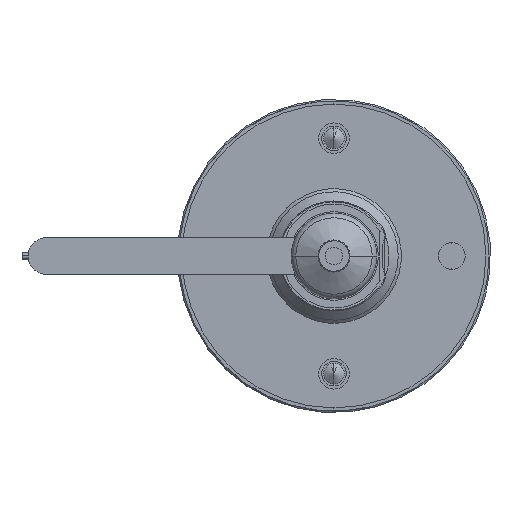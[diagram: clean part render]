
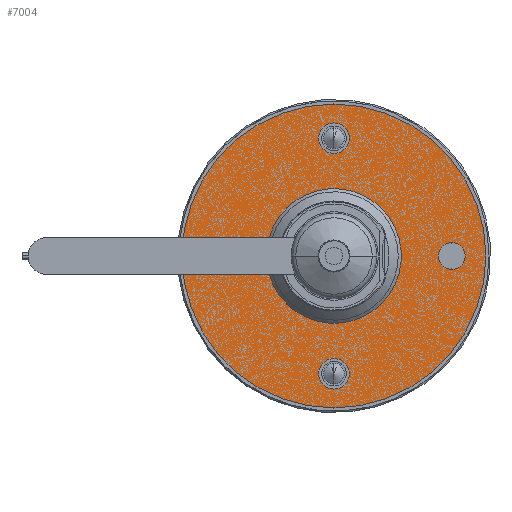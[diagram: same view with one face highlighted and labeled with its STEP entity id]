
A CAD part, front view. The second image highlights one B-rep face of the part: STEP entity #7004.
In plain terms, the highlighted planar face has unit normal (0, -1, 0) as drawn and (0, 0, -1) by its records, which use the part's own axes.
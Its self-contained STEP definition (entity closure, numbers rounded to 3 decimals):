
#38 = AXIS2_PLACEMENT_3D ( 'NONE', #22825, #11093, #20381 ) ;
#59 = DIRECTION ( 'NONE',  ( -1., 0., 0. ) ) ;
#258 = EDGE_CURVE ( 'NONE', #18220, #5603, #30042, .T. ) ;
#500 = CIRCLE ( 'NONE', #7343, 5. ) ;
#741 = VERTEX_POINT ( 'NONE', #5837 ) ;
#991 = AXIS2_PLACEMENT_3D ( 'NONE', #4938, #20962, #9366 ) ;
#1146 = EDGE_CURVE ( 'NONE', #26147, #1529, #2301, .T. ) ;
#1529 = VERTEX_POINT ( 'NONE', #8636 ) ;
#1689 = AXIS2_PLACEMENT_3D ( 'NONE', #13801, #6501, #4202 ) ;
#1718 = CARTESIAN_POINT ( 'NONE',  ( 4.4, -38.5, 0. ) ) ;
#1772 = DIRECTION ( 'NONE',  ( 0., 0., 1. ) ) ;
#1796 = EDGE_LOOP ( 'NONE', ( #9060, #21539 ) ) ;
#2301 = CIRCLE ( 'NONE', #3782, 4.4 ) ;
#2984 = ORIENTED_EDGE ( 'NONE', *, *, #27289, .T. ) ;
#3056 = CARTESIAN_POINT ( 'NONE',  ( 4.4, 38.5, 0. ) ) ;
#3575 = DIRECTION ( 'NONE',  ( -1., 0., 0. ) ) ;
#3782 = AXIS2_PLACEMENT_3D ( 'NONE', #25254, #1772, #59 ) ;
#3837 = ORIENTED_EDGE ( 'NONE', *, *, #17779, .T. ) ;
#4060 = FACE_BOUND ( 'NONE', #1796, .T. ) ;
#4129 = VERTEX_POINT ( 'NONE', #24264 ) ;
#4202 = DIRECTION ( 'NONE',  ( -1., 0., 0. ) ) ;
#4430 = ORIENTED_EDGE ( 'NONE', *, *, #8346, .T. ) ;
#4450 = CIRCLE ( 'NONE', #26382, 4.4 ) ;
#4938 = CARTESIAN_POINT ( 'NONE',  ( 0., 0., 0. ) ) ;
#5401 = ORIENTED_EDGE ( 'NONE', *, *, #6088, .T. ) ;
#5603 = VERTEX_POINT ( 'NONE', #5820 ) ;
#5820 = CARTESIAN_POINT ( 'NONE',  ( 43.5, 0., 0. ) ) ;
#5837 = CARTESIAN_POINT ( 'NONE',  ( -49.675, 0., 0. ) ) ;
#5863 = CARTESIAN_POINT ( 'NONE',  ( 0., -38.5, 0. ) ) ;
#6088 = EDGE_CURVE ( 'NONE', #1529, #26147, #25366, .T. ) ;
#6186 = EDGE_CURVE ( 'NONE', #26580, #4129, #500, .T. ) ;
#6498 = ORIENTED_EDGE ( 'NONE', *, *, #24297, .T. ) ;
#6501 = DIRECTION ( 'NONE',  ( 0., 0., 1. ) ) ;
#6578 = DIRECTION ( 'NONE',  ( -1., 0., 0. ) ) ;
#6653 = FACE_OUTER_BOUND ( 'NONE', #21995, .T. ) ;
#6696 = EDGE_LOOP ( 'NONE', ( #6498, #9051 ) ) ;
#6698 = CARTESIAN_POINT ( 'NONE',  ( -4.4, 38.5, 0. ) ) ;
#7004 = ADVANCED_FACE ( 'NONE', ( #6653, #24952, #25244, #4060, #13214, #18229 ), #22677, .T. ) ;
#7343 = AXIS2_PLACEMENT_3D ( 'NONE', #22783, #9343, #22640 ) ;
#7428 = AXIS2_PLACEMENT_3D ( 'NONE', #25312, #13575, #6578 ) ;
#8346 = EDGE_CURVE ( 'NONE', #29063, #11432, #20501, .T. ) ;
#8448 = DIRECTION ( 'NONE',  ( -1., 0., 0. ) ) ;
#8636 = CARTESIAN_POINT ( 'NONE',  ( -4.4, -38.5, 0. ) ) ;
#8743 = VERTEX_POINT ( 'NONE', #3056 ) ;
#9051 = ORIENTED_EDGE ( 'NONE', *, *, #10143, .T. ) ;
#9060 = ORIENTED_EDGE ( 'NONE', *, *, #258, .T. ) ;
#9237 = EDGE_CURVE ( 'NONE', #741, #18593, #9427, .T. ) ;
#9343 = DIRECTION ( 'NONE',  ( 0., 0., 1. ) ) ;
#9366 = DIRECTION ( 'NONE',  ( 1., 0., 0. ) ) ;
#9427 = CIRCLE ( 'NONE', #27395, 49.675 ) ;
#9842 = CARTESIAN_POINT ( 'NONE',  ( -16.5, 0., 0. ) ) ;
#9886 = CARTESIAN_POINT ( 'NONE',  ( 0., 38.5, 0. ) ) ;
#9895 = DIRECTION ( 'NONE',  ( 0., 0., -1. ) ) ;
#9953 = CARTESIAN_POINT ( 'NONE',  ( 0., 0., 0. ) ) ;
#10143 = EDGE_CURVE ( 'NONE', #8743, #19753, #4450, .T. ) ;
#10386 = CIRCLE ( 'NONE', #27412, 16.5 ) ;
#11093 = DIRECTION ( 'NONE',  ( 0., 0., -1. ) ) ;
#11191 = CARTESIAN_POINT ( 'NONE',  ( 0., 38.5, 0. ) ) ;
#11432 = VERTEX_POINT ( 'NONE', #28798 ) ;
#11726 = DIRECTION ( 'NONE',  ( 0., 0., 1. ) ) ;
#11789 = CARTESIAN_POINT ( 'NONE',  ( 33.5, 0., 0. ) ) ;
#12282 = CARTESIAN_POINT ( 'NONE',  ( 38.5, 0., 0. ) ) ;
#12617 = ORIENTED_EDGE ( 'NONE', *, *, #1146, .T. ) ;
#13214 = FACE_BOUND ( 'NONE', #18111, .T. ) ;
#13575 = DIRECTION ( 'NONE',  ( 0., 0., -1. ) ) ;
#13672 = AXIS2_PLACEMENT_3D ( 'NONE', #9886, #11726, #14144 ) ;
#13683 = CARTESIAN_POINT ( 'NONE',  ( -43.5, 0., 0. ) ) ;
#13801 = CARTESIAN_POINT ( 'NONE',  ( -38.5, 0., 0. ) ) ;
#14144 = DIRECTION ( 'NONE',  ( -1., 0., 0. ) ) ;
#14936 = AXIS2_PLACEMENT_3D ( 'NONE', #12282, #26160, #21440 ) ;
#15146 = DIRECTION ( 'NONE',  ( 0., 0., 1. ) ) ;
#15350 = CARTESIAN_POINT ( 'NONE',  ( 49.675, 0., 0. ) ) ;
#15708 = EDGE_LOOP ( 'NONE', ( #27101, #4430 ) ) ;
#15714 = CIRCLE ( 'NONE', #7428, 49.675 ) ;
#16036 = DIRECTION ( 'NONE',  ( 0., 0., 1. ) ) ;
#16408 = CARTESIAN_POINT ( 'NONE',  ( 38.5, 0., 0. ) ) ;
#16646 = DIRECTION ( 'NONE',  ( 0., 0., 1. ) ) ;
#17082 = CIRCLE ( 'NONE', #13672, 4.4 ) ;
#17779 = EDGE_CURVE ( 'NONE', #4129, #26580, #25079, .T. ) ;
#18111 = EDGE_LOOP ( 'NONE', ( #19818, #3837 ) ) ;
#18220 = VERTEX_POINT ( 'NONE', #11789 ) ;
#18229 = FACE_BOUND ( 'NONE', #15708, .T. ) ;
#18593 = VERTEX_POINT ( 'NONE', #15350 ) ;
#19070 = CIRCLE ( 'NONE', #28354, 5. ) ;
#19753 = VERTEX_POINT ( 'NONE', #6698 ) ;
#19818 = ORIENTED_EDGE ( 'NONE', *, *, #6186, .T. ) ;
#20381 = DIRECTION ( 'NONE',  ( -1., 0., 0. ) ) ;
#20501 = CIRCLE ( 'NONE', #991, 16.5 ) ;
#20962 = DIRECTION ( 'NONE',  ( 0., 0., 1. ) ) ;
#21440 = DIRECTION ( 'NONE',  ( -1., 0., 0. ) ) ;
#21492 = DIRECTION ( 'NONE',  ( -1., 0., 0. ) ) ;
#21539 = ORIENTED_EDGE ( 'NONE', *, *, #25640, .T. ) ;
#21995 = EDGE_LOOP ( 'NONE', ( #2984, #27645 ) ) ;
#22640 = DIRECTION ( 'NONE',  ( -1., 0., 0. ) ) ;
#22677 = PLANE ( 'NONE',  #38 ) ;
#22783 = CARTESIAN_POINT ( 'NONE',  ( -38.5, 0., 0. ) ) ;
#22825 = CARTESIAN_POINT ( 'NONE',  ( 16.5, 0., 0. ) ) ;
#23532 = DIRECTION ( 'NONE',  ( 1., 0., 0. ) ) ;
#24264 = CARTESIAN_POINT ( 'NONE',  ( -33.5, 0., 0. ) ) ;
#24297 = EDGE_CURVE ( 'NONE', #19753, #8743, #17082, .T. ) ;
#24952 = FACE_BOUND ( 'NONE', #26425, .T. ) ;
#25079 = CIRCLE ( 'NONE', #1689, 5. ) ;
#25244 = FACE_BOUND ( 'NONE', #6696, .T. ) ;
#25254 = CARTESIAN_POINT ( 'NONE',  ( 0., -38.5, 0. ) ) ;
#25312 = CARTESIAN_POINT ( 'NONE',  ( 0., 0., 0. ) ) ;
#25366 = CIRCLE ( 'NONE', #27836, 4.4 ) ;
#25640 = EDGE_CURVE ( 'NONE', #5603, #18220, #19070, .T. ) ;
#25724 = DIRECTION ( 'NONE',  ( -1., 0., 0. ) ) ;
#26147 = VERTEX_POINT ( 'NONE', #1718 ) ;
#26160 = DIRECTION ( 'NONE',  ( 0., 0., 1. ) ) ;
#26382 = AXIS2_PLACEMENT_3D ( 'NONE', #11191, #16036, #8448 ) ;
#26425 = EDGE_LOOP ( 'NONE', ( #5401, #12617 ) ) ;
#26580 = VERTEX_POINT ( 'NONE', #13683 ) ;
#27101 = ORIENTED_EDGE ( 'NONE', *, *, #27859, .T. ) ;
#27289 = EDGE_CURVE ( 'NONE', #18593, #741, #15714, .T. ) ;
#27395 = AXIS2_PLACEMENT_3D ( 'NONE', #28219, #9895, #21492 ) ;
#27412 = AXIS2_PLACEMENT_3D ( 'NONE', #9953, #16646, #23532 ) ;
#27645 = ORIENTED_EDGE ( 'NONE', *, *, #9237, .T. ) ;
#27836 = AXIS2_PLACEMENT_3D ( 'NONE', #5863, #15146, #3575 ) ;
#27859 = EDGE_CURVE ( 'NONE', #11432, #29063, #10386, .T. ) ;
#28219 = CARTESIAN_POINT ( 'NONE',  ( 0., 0., 0. ) ) ;
#28354 = AXIS2_PLACEMENT_3D ( 'NONE', #16408, #28486, #25724 ) ;
#28486 = DIRECTION ( 'NONE',  ( 0., 0., 1. ) ) ;
#28798 = CARTESIAN_POINT ( 'NONE',  ( 16.5, 0., 0. ) ) ;
#29063 = VERTEX_POINT ( 'NONE', #9842 ) ;
#30042 = CIRCLE ( 'NONE', #14936, 5. ) ;
